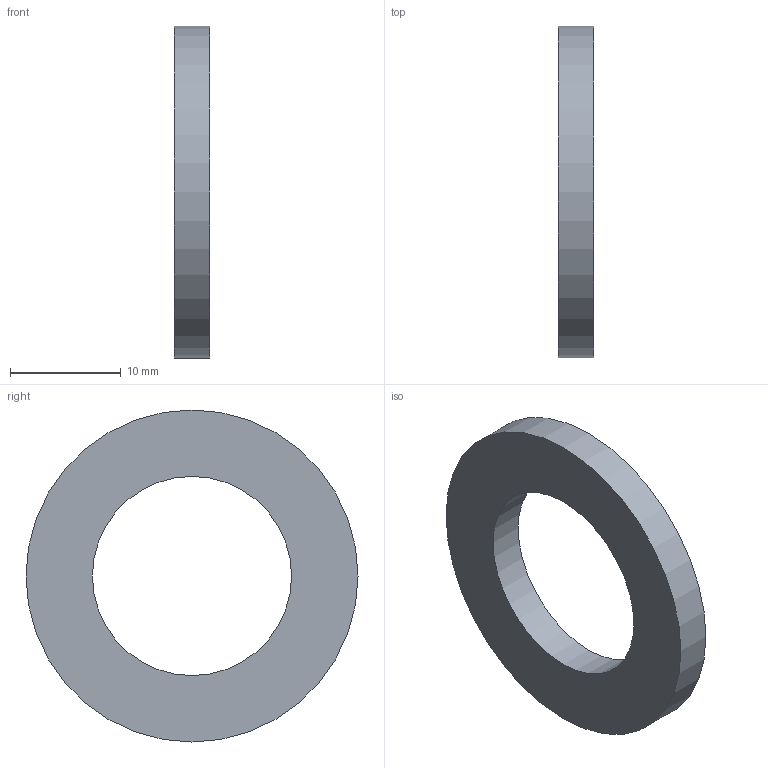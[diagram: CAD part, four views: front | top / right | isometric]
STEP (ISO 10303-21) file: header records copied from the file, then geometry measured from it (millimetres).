
FILE_DESCRIPTION(/* description */ ('평면 와셔'),/* implementation_level */ '2;1');
FILE_NAME(/* name */ '',/* time_stamp */ '2025-01-09T17:57:38+09:00',/* author */ ('jhkim'),/* organization */ (''),/* preprocessor_version */ 'ST-DEVELOPER v20',/* originating_system */ 'Autodesk Inventor 2025',/* authorisation */ '');
FILE_SCHEMA (('AUTOMOTIVE_DESIGN { 1 0 10303 214 3 1 1 }'));
Length unit declared in the file: millimetre
Products named in the file (1): 평 와셔 M16
Bounding box: 3.2 x 30 x 30 mm (x, y, z)
Volume: 1447.6 mm3; surface area: 1387.3 mm2
Topology: 1 solids, 1 shells, 4 faces, 6 edges, 4 vertices
Faces by surface type: cylinder 2, plane 2
Full cylindrical faces by diameter (mm): 18 x1, 30 x1
Entity records: 141 total; most frequent: DIRECTION 20, CARTESIAN_POINT 15, ORIENTED_EDGE 12, AXIS2_PLACEMENT_3D 9, EDGE_LOOP 6, EDGE_CURVE 6, FACE_OUTER_BOUND 4, CIRCLE 4
